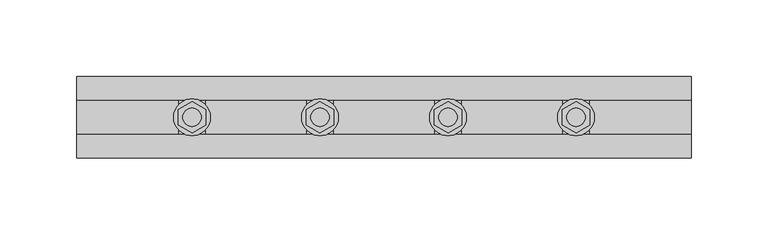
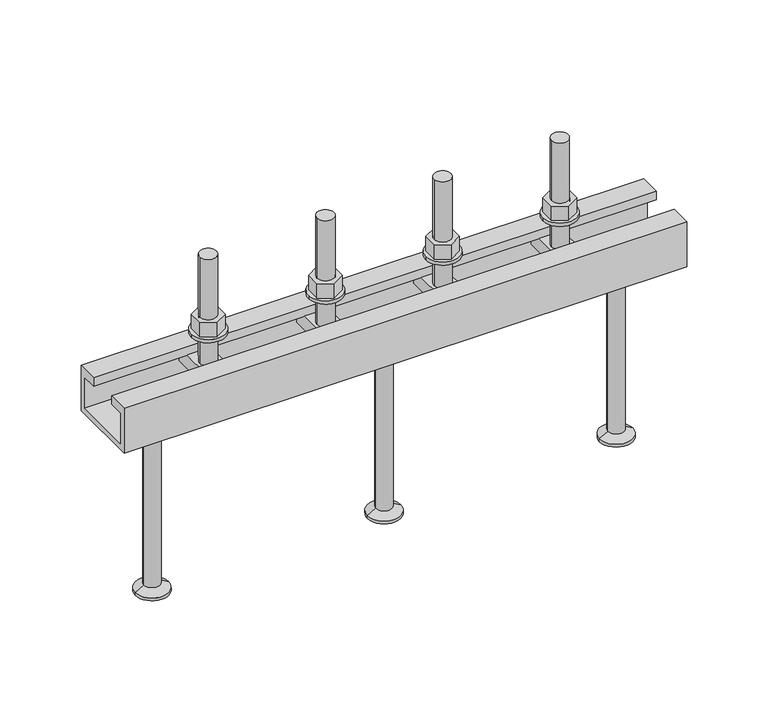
"""IFC4 building model written with IfcOpenShell, lengths in millimetres: fastener geometry, JTA-W JORDAHL® AnchorChannels : JTA-W L=400 mm."""

from ifc_helpers import new_model, si_unit, point, frame, frame_2d, origin, place, context, project, spatial, polyline, circle_curve, trimmed, segment, composite_curve, outline, extrude, source, transform, mapped, element, save
from ifc_brep_helpers import plane_surface, cylinder_surface, revolved_surface, advanced_brep


def fastener_95f84b24(model_context):
    return source(origin(), model_context, "Body", "SolidModel", [
        extrude(outline(polyline([(241.6666667, -10.3923048), (232.6666667, -5.1961524), (232.6666667, 5.1961524), (241.6666667, 10.3923048), (250.6666667, 5.1961524), (250.6666667, -5.1961524), (241.6666667, -10.3923048)]), holes=[composite_curve([segment(trimmed(circle_curve(frame_2d((241.6666667, 0.0)), 6.0), [point((235.6666667, 0.0))], [point((247.6666667, 0.0))], True, "CARTESIAN"), True, "CONTINUOUS"), segment(trimmed(circle_curve(frame_2d((241.6666667, 0.0)), 6.0), [point((247.6666667, 0.0))], [point((235.6666667, 0.0))], True, "CARTESIAN"), True, "CONTINUOUS")], self_intersect=False)]), frame((0.0, 0.0, 17.5), z_axis=(0.0, 0.0, 1.0), x_axis=(1.0, 0.0, 0.0)), (0.0, 0.0, 1.0), 10.8),
        extrude(outline(composite_curve([segment(trimmed(circle_curve(frame_2d((241.6666667, 0.0)), 12.0), [point((229.6666667, 0.0))], [point((253.6666667, 0.0))], False, "CARTESIAN"), True, "CONTINUOUS"), segment(trimmed(circle_curve(frame_2d((241.6666667, 0.0)), 12.0), [point((253.6666667, 0.0))], [point((229.6666667, 0.0))], False, "CARTESIAN"), True, "CONTINUOUS")], self_intersect=False), holes=[composite_curve([segment(trimmed(circle_curve(frame_2d((241.6666667, 0.0)), 6.5), [point((235.1666667, 0.0))], [point((248.1666667, 0.0))], True, "CARTESIAN"), True, "CONTINUOUS"), segment(trimmed(circle_curve(frame_2d((241.6666667, 0.0)), 6.5), [point((248.1666667, 0.0))], [point((235.1666667, 0.0))], True, "CARTESIAN"), True, "CONTINUOUS")], self_intersect=False)]), frame((0.0, 0.0, 15.0), z_axis=(0.0, 0.0, 1.0), x_axis=(1.0, 0.0, 0.0)), (0.0, 0.0, 1.0), 2.5),
        extrude(outline(polyline([(158.3333333, -10.3923048), (149.3333333, -5.1961524), (149.3333333, 5.1961524), (158.3333333, 10.3923048), (167.3333333, 5.1961524), (167.3333333, -5.1961524), (158.3333333, -10.3923048)]), holes=[composite_curve([segment(trimmed(circle_curve(frame_2d((158.3333333, 0.0)), 6.0), [point((152.3333333, 0.0))], [point((164.3333333, 0.0))], True, "CARTESIAN"), True, "CONTINUOUS"), segment(trimmed(circle_curve(frame_2d((158.3333333, 0.0)), 6.0), [point((164.3333333, 0.0))], [point((152.3333333, 0.0))], True, "CARTESIAN"), True, "CONTINUOUS")], self_intersect=False)]), frame((0.0, 0.0, 17.5), z_axis=(0.0, 0.0, 1.0), x_axis=(1.0, 0.0, 0.0)), (0.0, 0.0, 1.0), 10.8),
        extrude(outline(composite_curve([segment(trimmed(circle_curve(frame_2d((158.3333333, 0.0)), 12.0), [point((146.3333333, 0.0))], [point((170.3333333, 0.0))], False, "CARTESIAN"), True, "CONTINUOUS"), segment(trimmed(circle_curve(frame_2d((158.3333333, 0.0)), 12.0), [point((170.3333333, 0.0))], [point((146.3333333, 0.0))], False, "CARTESIAN"), True, "CONTINUOUS")], self_intersect=False), holes=[composite_curve([segment(trimmed(circle_curve(frame_2d((158.3333333, 0.0)), 6.5), [point((151.8333333, 0.0))], [point((164.8333333, 0.0))], True, "CARTESIAN"), True, "CONTINUOUS"), segment(trimmed(circle_curve(frame_2d((158.3333333, 0.0)), 6.5), [point((164.8333333, 0.0))], [point((151.8333333, 0.0))], True, "CARTESIAN"), True, "CONTINUOUS")], self_intersect=False)]), frame((0.0, 0.0, 15.0), z_axis=(0.0, 0.0, 1.0), x_axis=(1.0, 0.0, 0.0)), (0.0, 0.0, 1.0), 2.5),
        advanced_brep(
        [(250.1666667, -20.7, -6.5), (250.1666667, -20.7, -16.5), (250.1666667, 20.7, -16.5), (250.1666667, 20.7, -6.5), (233.1666667, -20.7, -6.5), (233.1666667, 20.7, -6.5), (233.1666667, 20.7, -16.5), (233.1666667, -20.7, -16.5), (247.6666667, 0.0, -6.5), (235.6666667, 0.0, -6.5), (235.6666667, 0.0, 73.5), (247.6666667, 0.0, 73.5)],
        [
            (0, 1),
            (1, 2),
            (2, 3),
            (3, 0),
            (4, 5),
            (5, 6),
            (6, 7),
            (7, 4),
            (3, 5),
            (4, 0),
            (8, 9, circle_curve(frame((241.6666667, 0.0, -6.5), z_axis=(0.0, 0.0, -1.0), x_axis=(1.0, 0.0, 0.0)), 6.0)),
            (9, 8, circle_curve(frame((241.6666667, 0.0, -6.5), z_axis=(0.0, 0.0, -1.0), x_axis=(1.0, 0.0, 0.0)), 6.0)),
            (2, 6),
            (1, 7),
            (10, 11, circle_curve(frame((241.6666667, 0.0, 73.5), z_axis=(0.0, 0.0, 1.0), x_axis=(1.0, 0.0, 0.0)), 6.0)),
            (11, 10, circle_curve(frame((241.6666667, 0.0, 73.5), z_axis=(0.0, 0.0, 1.0), x_axis=(1.0, 0.0, 0.0)), 6.0)),
            (11, 8),
            (9, 10),
        ],
        [
            plane_surface(frame((250.1666667, 20.7, -6.5), z_axis=(1.0, 0.0, 0.0), x_axis=(0.0, 1.0, 0.0))),
            plane_surface(frame((233.1666667, 20.7, -6.5), z_axis=(-1.0, 0.0, 0.0), x_axis=(0.0, -1.0, 0.0))),
            plane_surface(frame((250.1666667, -20.7, -6.5), z_axis=(0.0, 0.0, 1.0), x_axis=(-1.0, 0.0, 0.0))),
            plane_surface(frame((250.1666667, 20.7, -6.5), z_axis=(0.0, 1.0, 0.0), x_axis=(-1.0, 0.0, 0.0))),
            plane_surface(frame((250.1666667, 20.7, -16.5), z_axis=(0.0, 0.0, -1.0), x_axis=(-1.0, 0.0, 0.0))),
            plane_surface(frame((250.1666667, -20.7, -16.5), z_axis=(0.0, -1.0, 0.0), x_axis=(-1.0, 0.0, 0.0))),
            plane_surface(frame((247.6666667, 0.0, 73.5), z_axis=(0.0, 0.0, 1.0), x_axis=(0.0, -1.0, 0.0))),
            cylinder_surface(frame((241.6666667, 0.0, -6.5), z_axis=(0.0, 0.0, 1.0), x_axis=(1.0, 0.0, 0.0)), 6.0),
        ],
        [
            (0, [[1, 2, 3, 4]]),
            (1, [[5, 6, 7, 8]]),
            (2, [[9, -5, 10, -4], [11, 12]]),
            (3, [[13, -6, -9, -3]]),
            (4, [[14, -7, -13, -2]]),
            (5, [[-10, -8, -14, -1]]),
            (6, [[15, 16]]),
            (7, [[17, -12, 18, -16]]),
            (7, [[-18, -11, -17, -15]]),
        ],
    ),
        advanced_brep(
        [(166.8333333, -20.7, -6.5), (166.8333333, -20.7, -16.5), (166.8333333, 20.7, -16.5), (166.8333333, 20.7, -6.5), (149.8333333, -20.7, -6.5), (149.8333333, 20.7, -6.5), (149.8333333, 20.7, -16.5), (149.8333333, -20.7, -16.5), (164.3333333, 0.0, -6.5), (152.3333333, 0.0, -6.5), (152.3333333, 0.0, 73.5), (164.3333333, 0.0, 73.5)],
        [
            (0, 1),
            (1, 2),
            (2, 3),
            (3, 0),
            (4, 5),
            (5, 6),
            (6, 7),
            (7, 4),
            (3, 5),
            (4, 0),
            (8, 9, circle_curve(frame((158.3333333, 0.0, -6.5), z_axis=(0.0, 0.0, -1.0), x_axis=(1.0, 0.0, 0.0)), 6.0)),
            (9, 8, circle_curve(frame((158.3333333, 0.0, -6.5), z_axis=(0.0, 0.0, -1.0), x_axis=(1.0, 0.0, 0.0)), 6.0)),
            (2, 6),
            (1, 7),
            (10, 11, circle_curve(frame((158.3333333, 0.0, 73.5), z_axis=(0.0, 0.0, 1.0), x_axis=(1.0, 0.0, 0.0)), 6.0)),
            (11, 10, circle_curve(frame((158.3333333, 0.0, 73.5), z_axis=(0.0, 0.0, 1.0), x_axis=(1.0, 0.0, 0.0)), 6.0)),
            (11, 8),
            (9, 10),
        ],
        [
            plane_surface(frame((166.8333333, 20.7, -6.5), z_axis=(1.0, 0.0, 0.0), x_axis=(0.0, 1.0, 0.0))),
            plane_surface(frame((149.8333333, 20.7, -6.5), z_axis=(-1.0, 0.0, 0.0), x_axis=(0.0, -1.0, 0.0))),
            plane_surface(frame((166.8333333, -20.7, -6.5), z_axis=(0.0, 0.0, 1.0), x_axis=(-1.0, 0.0, 0.0))),
            plane_surface(frame((166.8333333, 20.7, -6.5), z_axis=(0.0, 1.0, 0.0), x_axis=(-1.0, 0.0, 0.0))),
            plane_surface(frame((166.8333333, 20.7, -16.5), z_axis=(0.0, 0.0, -1.0), x_axis=(-1.0, 0.0, 0.0))),
            plane_surface(frame((166.8333333, -20.7, -16.5), z_axis=(0.0, -1.0, 0.0), x_axis=(-1.0, 0.0, 0.0))),
            plane_surface(frame((164.3333333, 0.0, 73.5), z_axis=(0.0, 0.0, 1.0), x_axis=(0.0, -1.0, 0.0))),
            cylinder_surface(frame((158.3333333, 0.0, -6.5), z_axis=(0.0, 0.0, 1.0), x_axis=(1.0, 0.0, 0.0)), 6.0),
        ],
        [
            (0, [[1, 2, 3, 4]]),
            (1, [[5, 6, 7, 8]]),
            (2, [[9, -5, 10, -4], [11, 12]]),
            (3, [[13, -6, -9, -3]]),
            (4, [[14, -7, -13, -2]]),
            (5, [[-10, -8, -14, -1]]),
            (6, [[15, 16]]),
            (7, [[17, -12, 18, -16]]),
            (7, [[-18, -11, -17, -15]]),
        ],
    ),
        advanced_brep(
        [(200.0, 0.0, -34.0), (182.5, 0.0, -34.0), (217.5, 0.0, -34.0), (188.2, 0.0, -165.0), (200.0, 0.0, -165.0), (211.8, 0.0, -165.0), (188.2, 0.0, -163.0), (211.8, 0.0, -163.0), (194.2, 0.0, -159.5358984), (205.8, 0.0, -159.5358984), (194.2, 0.0, -37.0), (205.8, 0.0, -37.0)],
        [
            (0, 1),
            (1, 2, circle_curve(frame((200.0, 0.0, -34.0), z_axis=(0.0, 0.0, 1.0), x_axis=(1.0, 0.0, 0.0)), 17.5)),
            (2, 0),
            (2, 1, circle_curve(frame((200.0, 0.0, -34.0), z_axis=(0.0, 0.0, 1.0), x_axis=(1.0, 0.0, 0.0)), 17.5)),
            (3, 4),
            (4, 5),
            (5, 3, circle_curve(frame((200.0, 0.0, -165.0), z_axis=(0.0, 0.0, -1.0), x_axis=(1.0, 0.0, 0.0)), 11.8)),
            (3, 5, circle_curve(frame((200.0, 0.0, -165.0), z_axis=(0.0, 0.0, -1.0), x_axis=(1.0, 0.0, 0.0)), 11.8)),
            (6, 3),
            (5, 7),
            (7, 6, circle_curve(frame((200.0, 0.0, -163.0), z_axis=(0.0, 0.0, -1.0), x_axis=(1.0, 0.0, 0.0)), 11.8)),
            (6, 7, circle_curve(frame((200.0, 0.0, -163.0), z_axis=(0.0, 0.0, -1.0), x_axis=(1.0, 0.0, 0.0)), 11.8)),
            (8, 6),
            (7, 9),
            (9, 8, circle_curve(frame((200.0, 0.0, -159.5358984), z_axis=(0.0, 0.0, -1.0), x_axis=(1.0, 0.0, 0.0)), 5.8)),
            (8, 9, circle_curve(frame((200.0, 0.0, -159.5358984), z_axis=(0.0, 0.0, -1.0), x_axis=(1.0, 0.0, 0.0)), 5.8)),
            (10, 8),
            (9, 11),
            (11, 10, circle_curve(frame((200.0, 0.0, -37.0), z_axis=(0.0, 0.0, -1.0), x_axis=(1.0, 0.0, 0.0)), 5.8)),
            (10, 11, circle_curve(frame((200.0, 0.0, -37.0), z_axis=(0.0, 0.0, -1.0), x_axis=(1.0, 0.0, 0.0)), 5.8)),
            (1, 10),
            (11, 2),
        ],
        [
            plane_surface(frame((200.0, 0.0, -34.0), z_axis=(0.0, 0.0, 1.0), x_axis=(1.0, 0.0, 0.0))),
            plane_surface(frame((200.0, 0.0, -165.0), z_axis=(0.0, 0.0, -1.0), x_axis=(1.0, 0.0, 0.0))),
            cylinder_surface(frame((200.0, 0.0, 2345.3150031), z_axis=(0.0, 0.0, 1.0), x_axis=(1.0, 0.0, 0.0)), 11.8),
            revolved_surface(polyline([(211.8, 0.0, -163.0), (205.8, 0.0, -159.5358984)]), (200.0, 0.0, 2345.3150031), (0.0, 0.0, 1.0)),
            cylinder_surface(frame((200.0, 0.0, 2345.3150031), z_axis=(0.0, 0.0, 1.0), x_axis=(1.0, 0.0, 0.0)), 5.8),
            revolved_surface(polyline([(205.8, 0.0, -37.0), (217.5, 0.0, -34.0)]), (200.0, 0.0, 2345.3150031), (0.0, 0.0, 1.0)),
        ],
        [
            (0, [[1, 2, 3]]),
            (0, [[-3, 4, -1]]),
            (1, [[5, 6, 7]]),
            (1, [[-6, -5, 8]]),
            (2, [[9, -7, 10, 11]]),
            (2, [[-10, -8, -9, 12]]),
            (3, [[13, -11, 14, 15]]),
            (3, [[-14, -12, -13, 16]]),
            (4, [[17, -15, 18, 19]]),
            (4, [[-18, -16, -17, 20]]),
            (5, [[21, -19, 22, -2]]),
            (5, [[-22, -20, -21, -4]]),
        ],
    ),
        extrude(outline(polyline([(325.0, -10.3923048), (316.0, -5.1961524), (316.0, 5.1961524), (325.0, 10.3923048), (334.0, 5.1961524), (334.0, -5.1961524), (325.0, -10.3923048)]), holes=[composite_curve([segment(trimmed(circle_curve(frame_2d((325.0, 0.0)), 6.0), [point((319.0, 0.0))], [point((331.0, 0.0))], True, "CARTESIAN"), True, "CONTINUOUS"), segment(trimmed(circle_curve(frame_2d((325.0, 0.0)), 6.0), [point((331.0, 0.0))], [point((319.0, 0.0))], True, "CARTESIAN"), True, "CONTINUOUS")], self_intersect=False)]), frame((0.0, 0.0, 17.5), z_axis=(0.0, 0.0, 1.0), x_axis=(1.0, 0.0, 0.0)), (0.0, 0.0, 1.0), 10.8),
        extrude(outline(composite_curve([segment(trimmed(circle_curve(frame_2d((325.0, 0.0)), 12.0), [point((313.0, 0.0))], [point((337.0, 0.0))], False, "CARTESIAN"), True, "CONTINUOUS"), segment(trimmed(circle_curve(frame_2d((325.0, 0.0)), 12.0), [point((337.0, 0.0))], [point((313.0, 0.0))], False, "CARTESIAN"), True, "CONTINUOUS")], self_intersect=False), holes=[composite_curve([segment(trimmed(circle_curve(frame_2d((325.0, 0.0)), 6.5), [point((318.5, 0.0))], [point((331.5, 0.0))], True, "CARTESIAN"), True, "CONTINUOUS"), segment(trimmed(circle_curve(frame_2d((325.0, 0.0)), 6.5), [point((331.5, 0.0))], [point((318.5, 0.0))], True, "CARTESIAN"), True, "CONTINUOUS")], self_intersect=False)]), frame((0.0, 0.0, 15.0), z_axis=(0.0, 0.0, 1.0), x_axis=(1.0, 0.0, 0.0)), (0.0, 0.0, 1.0), 2.5),
        extrude(outline(polyline([(75.0, -10.3923048), (66.0, -5.1961524), (66.0, 5.1961524), (75.0, 10.3923048), (84.0, 5.1961524), (84.0, -5.1961524), (75.0, -10.3923048)]), holes=[composite_curve([segment(trimmed(circle_curve(frame_2d((75.0, 0.0)), 6.0), [point((69.0, 0.0))], [point((81.0, 0.0))], True, "CARTESIAN"), True, "CONTINUOUS"), segment(trimmed(circle_curve(frame_2d((75.0, 0.0)), 6.0), [point((81.0, 0.0))], [point((69.0, 0.0))], True, "CARTESIAN"), True, "CONTINUOUS")], self_intersect=False)]), frame((0.0, 0.0, 17.5), z_axis=(0.0, 0.0, 1.0), x_axis=(1.0, 0.0, 0.0)), (0.0, 0.0, 1.0), 10.8),
        extrude(outline(composite_curve([segment(trimmed(circle_curve(frame_2d((75.0, 0.0)), 12.0), [point((63.0, 0.0))], [point((87.0, 0.0))], False, "CARTESIAN"), True, "CONTINUOUS"), segment(trimmed(circle_curve(frame_2d((75.0, 0.0)), 12.0), [point((87.0, 0.0))], [point((63.0, 0.0))], False, "CARTESIAN"), True, "CONTINUOUS")], self_intersect=False), holes=[composite_curve([segment(trimmed(circle_curve(frame_2d((75.0, 0.0)), 6.5), [point((68.5, 0.0))], [point((81.5, 0.0))], True, "CARTESIAN"), True, "CONTINUOUS"), segment(trimmed(circle_curve(frame_2d((75.0, 0.0)), 6.5), [point((81.5, 0.0))], [point((68.5, 0.0))], True, "CARTESIAN"), True, "CONTINUOUS")], self_intersect=False)]), frame((0.0, 0.0, 15.0), z_axis=(0.0, 0.0, 1.0), x_axis=(1.0, 0.0, 0.0)), (0.0, 0.0, 1.0), 2.5),
        advanced_brep(
        [(333.5, -20.7, -6.5), (333.5, -20.7, -16.5), (333.5, 20.7, -16.5), (333.5, 20.7, -6.5), (316.5, -20.7, -6.5), (316.5, 20.7, -6.5), (316.5, 20.7, -16.5), (316.5, -20.7, -16.5), (331.0, 0.0, -6.5), (319.0, 0.0, -6.5), (319.0, 0.0, 73.5), (331.0, 0.0, 73.5)],
        [
            (0, 1),
            (1, 2),
            (2, 3),
            (3, 0),
            (4, 5),
            (5, 6),
            (6, 7),
            (7, 4),
            (3, 5),
            (4, 0),
            (8, 9, circle_curve(frame((325.0, 0.0, -6.5), z_axis=(0.0, 0.0, -1.0), x_axis=(1.0, 0.0, 0.0)), 6.0)),
            (9, 8, circle_curve(frame((325.0, 0.0, -6.5), z_axis=(0.0, 0.0, -1.0), x_axis=(1.0, 0.0, 0.0)), 6.0)),
            (2, 6),
            (1, 7),
            (10, 11, circle_curve(frame((325.0, 0.0, 73.5), z_axis=(0.0, 0.0, 1.0), x_axis=(1.0, 0.0, 0.0)), 6.0)),
            (11, 10, circle_curve(frame((325.0, 0.0, 73.5), z_axis=(0.0, 0.0, 1.0), x_axis=(1.0, 0.0, 0.0)), 6.0)),
            (11, 8),
            (9, 10),
        ],
        [
            plane_surface(frame((333.5, 20.7, -6.5), z_axis=(1.0, 0.0, 0.0), x_axis=(0.0, 1.0, 0.0))),
            plane_surface(frame((316.5, 20.7, -6.5), z_axis=(-1.0, 0.0, 0.0), x_axis=(0.0, -1.0, 0.0))),
            plane_surface(frame((333.5, -20.7, -6.5), z_axis=(0.0, 0.0, 1.0), x_axis=(-1.0, 0.0, 0.0))),
            plane_surface(frame((333.5, 20.7, -6.5), z_axis=(0.0, 1.0, 0.0), x_axis=(-1.0, 0.0, 0.0))),
            plane_surface(frame((333.5, 20.7, -16.5), z_axis=(0.0, 0.0, -1.0), x_axis=(-1.0, 0.0, 0.0))),
            plane_surface(frame((333.5, -20.7, -16.5), z_axis=(0.0, -1.0, 0.0), x_axis=(-1.0, 0.0, 0.0))),
            plane_surface(frame((331.0, 0.0, 73.5), z_axis=(0.0, 0.0, 1.0), x_axis=(0.0, -1.0, 0.0))),
            cylinder_surface(frame((325.0, 0.0, -6.5), z_axis=(0.0, 0.0, 1.0), x_axis=(1.0, 0.0, 0.0)), 6.0),
        ],
        [
            (0, [[1, 2, 3, 4]]),
            (1, [[5, 6, 7, 8]]),
            (2, [[9, -5, 10, -4], [11, 12]]),
            (3, [[13, -6, -9, -3]]),
            (4, [[14, -7, -13, -2]]),
            (5, [[-10, -8, -14, -1]]),
            (6, [[15, 16]]),
            (7, [[17, -12, 18, -16]]),
            (7, [[-18, -11, -17, -15]]),
        ],
    ),
        advanced_brep(
        [(83.5, -20.7, -6.5), (83.5, -20.7, -16.5), (83.5, 20.7, -16.5), (83.5, 20.7, -6.5), (66.5, -20.7, -6.5), (66.5, 20.7, -6.5), (66.5, 20.7, -16.5), (66.5, -20.7, -16.5), (81.0, 0.0, -6.5), (69.0, 0.0, -6.5), (69.0, 0.0, 73.5), (81.0, 0.0, 73.5)],
        [
            (0, 1),
            (1, 2),
            (2, 3),
            (3, 0),
            (4, 5),
            (5, 6),
            (6, 7),
            (7, 4),
            (3, 5),
            (4, 0),
            (8, 9, circle_curve(frame((75.0, 0.0, -6.5), z_axis=(0.0, 0.0, -1.0), x_axis=(1.0, 0.0, 0.0)), 6.0)),
            (9, 8, circle_curve(frame((75.0, 0.0, -6.5), z_axis=(0.0, 0.0, -1.0), x_axis=(1.0, 0.0, 0.0)), 6.0)),
            (2, 6),
            (1, 7),
            (10, 11, circle_curve(frame((75.0, 0.0, 73.5), z_axis=(0.0, 0.0, 1.0), x_axis=(1.0, 0.0, 0.0)), 6.0)),
            (11, 10, circle_curve(frame((75.0, 0.0, 73.5), z_axis=(0.0, 0.0, 1.0), x_axis=(1.0, 0.0, 0.0)), 6.0)),
            (11, 8),
            (9, 10),
        ],
        [
            plane_surface(frame((83.5, 20.7, -6.5), z_axis=(1.0, 0.0, 0.0), x_axis=(0.0, 1.0, 0.0))),
            plane_surface(frame((66.5, 20.7, -6.5), z_axis=(-1.0, 0.0, 0.0), x_axis=(0.0, -1.0, 0.0))),
            plane_surface(frame((83.5, -20.7, -6.5), z_axis=(0.0, 0.0, 1.0), x_axis=(-1.0, 0.0, 0.0))),
            plane_surface(frame((83.5, 20.7, -6.5), z_axis=(0.0, 1.0, 0.0), x_axis=(-1.0, 0.0, 0.0))),
            plane_surface(frame((83.5, 20.7, -16.5), z_axis=(0.0, 0.0, -1.0), x_axis=(-1.0, 0.0, 0.0))),
            plane_surface(frame((83.5, -20.7, -16.5), z_axis=(0.0, -1.0, 0.0), x_axis=(-1.0, 0.0, 0.0))),
            plane_surface(frame((81.0, 0.0, 73.5), z_axis=(0.0, 0.0, 1.0), x_axis=(0.0, -1.0, 0.0))),
            cylinder_surface(frame((75.0, 0.0, -6.5), z_axis=(0.0, 0.0, 1.0), x_axis=(1.0, 0.0, 0.0)), 6.0),
        ],
        [
            (0, [[1, 2, 3, 4]]),
            (1, [[5, 6, 7, 8]]),
            (2, [[9, -5, 10, -4], [11, 12]]),
            (3, [[13, -6, -9, -3]]),
            (4, [[14, -7, -13, -2]]),
            (5, [[-10, -8, -14, -1]]),
            (6, [[15, 16]]),
            (7, [[17, -12, 18, -16]]),
            (7, [[-18, -11, -17, -15]]),
        ],
    ),
        advanced_brep(
        [(365.0, 0.0, -34.0), (347.5, 0.0, -34.0), (382.5, 0.0, -34.0), (353.2, 0.0, -165.0), (365.0, 0.0, -165.0), (376.8, 0.0, -165.0), (353.2, 0.0, -163.0), (376.8, 0.0, -163.0), (359.2, 0.0, -159.5358984), (370.8, 0.0, -159.5358984), (359.2, 0.0, -37.0), (370.8, 0.0, -37.0)],
        [
            (0, 1),
            (1, 2, circle_curve(frame((365.0, 0.0, -34.0), z_axis=(0.0, 0.0, 1.0), x_axis=(1.0, 0.0, 0.0)), 17.5)),
            (2, 0),
            (2, 1, circle_curve(frame((365.0, 0.0, -34.0), z_axis=(0.0, 0.0, 1.0), x_axis=(1.0, 0.0, 0.0)), 17.5)),
            (3, 4),
            (4, 5),
            (5, 3, circle_curve(frame((365.0, 0.0, -165.0), z_axis=(0.0, 0.0, -1.0), x_axis=(1.0, 0.0, 0.0)), 11.8)),
            (3, 5, circle_curve(frame((365.0, 0.0, -165.0), z_axis=(0.0, 0.0, -1.0), x_axis=(1.0, 0.0, 0.0)), 11.8)),
            (6, 3),
            (5, 7),
            (7, 6, circle_curve(frame((365.0, 0.0, -163.0), z_axis=(0.0, 0.0, -1.0), x_axis=(1.0, 0.0, 0.0)), 11.8)),
            (6, 7, circle_curve(frame((365.0, 0.0, -163.0), z_axis=(0.0, 0.0, -1.0), x_axis=(1.0, 0.0, 0.0)), 11.8)),
            (8, 6),
            (7, 9),
            (9, 8, circle_curve(frame((365.0, 0.0, -159.5358984), z_axis=(0.0, 0.0, -1.0), x_axis=(1.0, 0.0, 0.0)), 5.8)),
            (8, 9, circle_curve(frame((365.0, 0.0, -159.5358984), z_axis=(0.0, 0.0, -1.0), x_axis=(1.0, 0.0, 0.0)), 5.8)),
            (10, 8),
            (9, 11),
            (11, 10, circle_curve(frame((365.0, 0.0, -37.0), z_axis=(0.0, 0.0, -1.0), x_axis=(1.0, 0.0, 0.0)), 5.8)),
            (10, 11, circle_curve(frame((365.0, 0.0, -37.0), z_axis=(0.0, 0.0, -1.0), x_axis=(1.0, 0.0, 0.0)), 5.8)),
            (1, 10),
            (11, 2),
        ],
        [
            plane_surface(frame((365.0, 0.0, -34.0), z_axis=(0.0, 0.0, 1.0), x_axis=(1.0, 0.0, 0.0))),
            plane_surface(frame((365.0, 0.0, -165.0), z_axis=(0.0, 0.0, -1.0), x_axis=(1.0, 0.0, 0.0))),
            cylinder_surface(frame((365.0, 0.0, 2345.3150031), z_axis=(0.0, 0.0, 1.0), x_axis=(1.0, 0.0, 0.0)), 11.8),
            revolved_surface(polyline([(376.8, 0.0, -163.0), (370.8, 0.0, -159.5358984)]), (365.0, 0.0, 2345.3150031), (0.0, 0.0, 1.0)),
            cylinder_surface(frame((365.0, 0.0, 2345.3150031), z_axis=(0.0, 0.0, 1.0), x_axis=(1.0, 0.0, 0.0)), 5.8),
            revolved_surface(polyline([(370.8, 0.0, -37.0), (382.5, 0.0, -34.0)]), (365.0, 0.0, 2345.3150031), (0.0, 0.0, 1.0)),
        ],
        [
            (0, [[1, 2, 3]]),
            (0, [[-3, 4, -1]]),
            (1, [[5, 6, 7]]),
            (1, [[-6, -5, 8]]),
            (2, [[9, -7, 10, 11]]),
            (2, [[-10, -8, -9, 12]]),
            (3, [[13, -11, 14, 15]]),
            (3, [[-14, -12, -13, 16]]),
            (4, [[17, -15, 18, 19]]),
            (4, [[-18, -16, -17, 20]]),
            (5, [[21, -19, 22, -2]]),
            (5, [[-22, -20, -21, -4]]),
        ],
    ),
        advanced_brep(
        [(35.0, 0.0, -34.0), (17.5, 0.0, -34.0), (52.5, 0.0, -34.0), (23.2, 0.0, -165.0), (35.0, 0.0, -165.0), (46.8, 0.0, -165.0), (23.2, 0.0, -163.0), (46.8, 0.0, -163.0), (29.2, 0.0, -159.5358984), (40.8, 0.0, -159.5358984), (29.2, 0.0, -37.0), (40.8, 0.0, -37.0)],
        [
            (0, 1),
            (1, 2, circle_curve(frame((35.0, 0.0, -34.0), z_axis=(0.0, 0.0, 1.0), x_axis=(1.0, 0.0, 0.0)), 17.5)),
            (2, 0),
            (2, 1, circle_curve(frame((35.0, 0.0, -34.0), z_axis=(0.0, 0.0, 1.0), x_axis=(1.0, 0.0, 0.0)), 17.5)),
            (3, 4),
            (4, 5),
            (5, 3, circle_curve(frame((35.0, 0.0, -165.0), z_axis=(0.0, 0.0, -1.0), x_axis=(1.0, 0.0, 0.0)), 11.8)),
            (3, 5, circle_curve(frame((35.0, 0.0, -165.0), z_axis=(0.0, 0.0, -1.0), x_axis=(1.0, 0.0, 0.0)), 11.8)),
            (6, 3),
            (5, 7),
            (7, 6, circle_curve(frame((35.0, 0.0, -163.0), z_axis=(0.0, 0.0, -1.0), x_axis=(1.0, 0.0, 0.0)), 11.8)),
            (6, 7, circle_curve(frame((35.0, 0.0, -163.0), z_axis=(0.0, 0.0, -1.0), x_axis=(1.0, 0.0, 0.0)), 11.8)),
            (8, 6),
            (7, 9),
            (9, 8, circle_curve(frame((35.0, 0.0, -159.5358984), z_axis=(0.0, 0.0, -1.0), x_axis=(1.0, 0.0, 0.0)), 5.8)),
            (8, 9, circle_curve(frame((35.0, 0.0, -159.5358984), z_axis=(0.0, 0.0, -1.0), x_axis=(1.0, 0.0, 0.0)), 5.8)),
            (10, 8),
            (9, 11),
            (11, 10, circle_curve(frame((35.0, 0.0, -37.0), z_axis=(0.0, 0.0, -1.0), x_axis=(1.0, 0.0, 0.0)), 5.8)),
            (10, 11, circle_curve(frame((35.0, 0.0, -37.0), z_axis=(0.0, 0.0, -1.0), x_axis=(1.0, 0.0, 0.0)), 5.8)),
            (1, 10),
            (11, 2),
        ],
        [
            plane_surface(frame((35.0, 0.0, -34.0), z_axis=(0.0, 0.0, 1.0), x_axis=(1.0, 0.0, 0.0))),
            plane_surface(frame((35.0, 0.0, -165.0), z_axis=(0.0, 0.0, -1.0), x_axis=(1.0, 0.0, 0.0))),
            cylinder_surface(frame((35.0, 0.0, 2345.3150031), z_axis=(0.0, 0.0, 1.0), x_axis=(1.0, 0.0, 0.0)), 11.8),
            revolved_surface(polyline([(46.8, 0.0, -163.0), (40.8, 0.0, -159.5358984)]), (35.0, 0.0, 2345.3150031), (0.0, 0.0, 1.0)),
            cylinder_surface(frame((35.0, 0.0, 2345.3150031), z_axis=(0.0, 0.0, 1.0), x_axis=(1.0, 0.0, 0.0)), 5.8),
            revolved_surface(polyline([(40.8, 0.0, -37.0), (52.5, 0.0, -34.0)]), (35.0, 0.0, 2345.3150031), (0.0, 0.0, 1.0)),
        ],
        [
            (0, [[1, 2, 3]]),
            (0, [[-3, 4, -1]]),
            (1, [[5, 6, 7]]),
            (1, [[-6, -5, 8]]),
            (2, [[9, -7, 10, 11]]),
            (2, [[-10, -8, -9, 12]]),
            (3, [[13, -11, 14, 15]]),
            (3, [[-14, -12, -13, 16]]),
            (4, [[17, -15, 18, 19]]),
            (4, [[-18, -16, -17, 20]]),
            (5, [[21, -19, 22, -2]]),
            (5, [[-22, -20, -21, -4]]),
        ],
    ),
        extrude(outline(polyline([(-26.5, 0.0), (-11.25, 0.0), (-11.25, -6.5), (-22.5, -6.5), (-22.5, -30.0), (22.5, -30.0), (22.5, -6.5), (11.25, -6.5), (11.25, 0.0), (26.5, 0.0), (26.5, -34.0), (-26.5, -34.0), (-26.5, 0.0)])), frame((0.0, 0.0, 0.0), z_axis=(1.0, 0.0, 0.0), x_axis=(0.0, 1.0, 0.0)), (0.0, 0.0, 1.0), 400.0),
    ])


if __name__ == "__main__":
    model = new_model("IFC4")
    model_context = context("Model", 3, world=origin())
    ifc_project = project(units=[si_unit("LENGTHUNIT", "METRE", prefix="MILLI")], contexts=[model_context])
    site = spatial("IfcSite", under=ifc_project)
    building = spatial("IfcBuilding", under=site)
    placement = place(None, origin())
    fastener_shape = fastener_95f84b24(model_context)
    element("IfcFastener", 1, ObjectType="JTA-W JORDAHL® AnchorChannels : JTA-W L=400 mm", at=placement, inside=building, context=model_context, shape_type="MappedRepresentation", body=[
        mapped(fastener_shape, transform((0.0, 0.0, 0.0), x_axis=(1.0, 0.0, 0.0), y_axis=(0.0, 1.0, 0.0), z_axis=(0.0, 0.0, 1.0))),
    ])
    save(model, "model.ifc")
